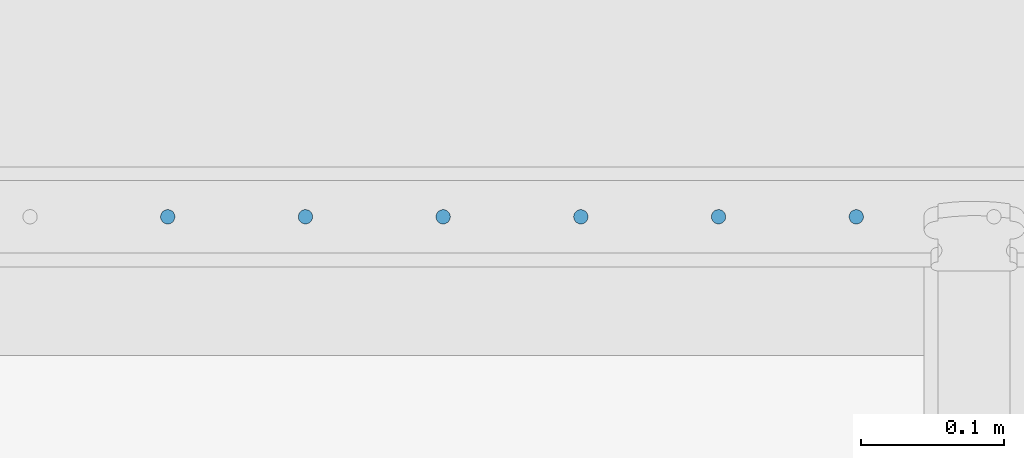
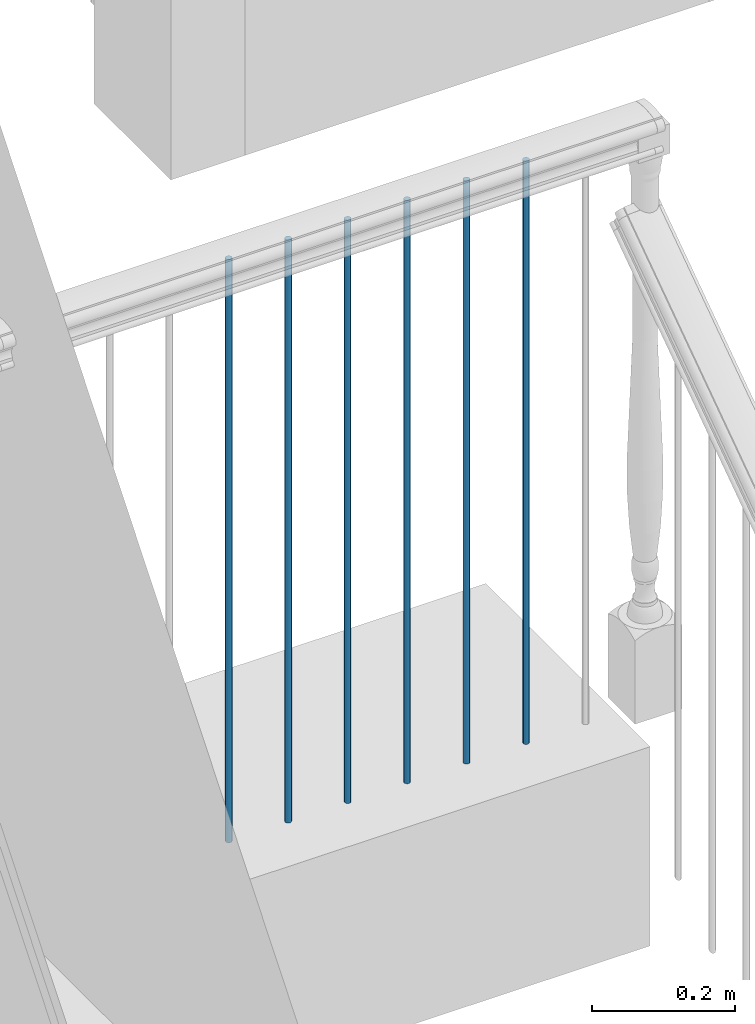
# One storey, part 23 of 77: 6 building element parts, 1 element without a shape of its own.
"""IFC2X3 building model written with IfcOpenShell, lengths in inches."""

from ifc_helpers import new_model, entity, si_unit, converted_unit, derived_unit, money_unit, direction, frame, origin_with_axes, place, context, subcontext, project, spatial, faceted_brep, material, type_object, element, aggregate, save


model = new_model("IFC2X3")

# Units and contexts
model_context = context("Model", 3, precision=0.000393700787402, world=origin_with_axes(), true_north=direction((0.0, 1.0)))
body_context = subcontext(model_context, "Body", "Model", "MODEL_VIEW")
ifc_project = project(units=[converted_unit("LENGTHUNIT", "INCH", entity("IfcPositiveLengthMeasure", 0.0254), si_unit("LENGTHUNIT", "METRE"), dimensions=[1, 0, 0, 0, 0, 0, 0]), converted_unit("AREAUNIT", "SQUARE_FOOT", entity("IfcPositiveLengthMeasure", 0.09290304), si_unit("AREAUNIT", "SQUARE_METRE"), dimensions=[2, 0, 0, 0, 0, 0, 0]), si_unit("PLANEANGLEUNIT", "RADIAN"), si_unit("SOLIDANGLEUNIT", "STERADIAN"), money_unit("USD"), converted_unit("TIMEUNIT", "Year", entity("IfcTimeMeasure", 31556926.0), si_unit("TIMEUNIT", "SECOND"), dimensions=[0, 0, 1, 0, 0, 0, 0]), si_unit("MASSUNIT", "GRAM", prefix="KILO"), si_unit("THERMODYNAMICTEMPERATUREUNIT", "DEGREE_CELSIUS"), si_unit("LUMINOUSINTENSITYUNIT", "LUMEN"), si_unit("ENERGYUNIT", "JOULE", prefix="MEGA"), derived_unit("THERMALCONDUCTANCEUNIT", [(si_unit("POWERUNIT", "WATT"), 1), (si_unit("LENGTHUNIT", "METRE"), -1), (si_unit("THERMODYNAMICTEMPERATUREUNIT", "KELVIN"), -1)]), derived_unit("SPECIFICHEATCAPACITYUNIT", [(si_unit("ENERGYUNIT", "JOULE"), 1), (si_unit("MASSUNIT", "GRAM", prefix="KILO"), -1), (si_unit("THERMODYNAMICTEMPERATUREUNIT", "KELVIN"), -1)]), derived_unit("MASSDENSITYUNIT", [(si_unit("MASSUNIT", "GRAM", prefix="KILO"), 1), (si_unit("VOLUMEUNIT", "CUBIC_METRE"), -1)])], contexts=[model_context])

# Site, building, storey
site_placement = place(None, origin_with_axes())
site = spatial("IfcSite", under=ifc_project, at=site_placement, Name="Site", CompositionType="ELEMENT")
building_placement = place(site_placement, origin_with_axes())
building = spatial("IfcBuilding", under=site, at=building_placement, Name="Building", CompositionType="ELEMENT")
storey_placement = place(building_placement, frame((0.0, 0.0, 127.952755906), z_axis=(0.0, 0.0, 1.0), x_axis=(1.0, 0.0, 0.0)))
storey = spatial("IfcBuildingStorey", under=building, at=storey_placement, Name="Second Floor", CompositionType="ELEMENT", Elevation=127.953)

# Railing, building element parts
railing_type = type_object("IfcRailingType", Name="Railing Type", PredefinedType="NOTDEFINED")
railing_placement = place(storey_placement, frame((643.187139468, 142.90717231, 0.0), z_axis=(0.0, 0.0, 1.0), x_axis=(0.0, 1.0, 0.0)))
railing = element("IfcRailing", 1, at=railing_placement, inside=storey, type_object=railing_type, Name="RAILING - 001", PredefinedType="NOTDEFINED")
ifc_material = material(Name="Steel - Structural")
building_element_part_1_placement = place(railing_placement, origin_with_axes())
building_element_part_1 = element("IfcBuildingElementPart", 2, at=building_element_part_1_placement, material=ifc_material, Name="Steel - Structural", context=body_context, shape_type="Brep", body=[
    faceted_brep([(1.96850393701, -14.9305048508, -4.94161422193e-07), (1.93432122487, -14.9334954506, -4.94161422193e-07), (1.93432122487, -14.9334954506, 39.2125984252), (1.96850393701, -14.9305048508, 39.2125984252), (2.00268664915, -14.9334954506, -4.94161422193e-07), (2.03583073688, -14.9423763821, -4.94161422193e-07), (2.06692913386, -14.9568778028, -4.94161422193e-07), (2.09503693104, -14.9765590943, -4.94161422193e-07), (2.11930008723, -15.0008222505, -4.94161422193e-07), (2.1389813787, -15.0289300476, -4.94161422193e-07), (2.15348279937, -15.0600284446, -4.94161422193e-07), (2.16236373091, -15.0931725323, -4.94161422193e-07), (2.16535433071, -15.1273552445, -4.94161422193e-07), (2.16236373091, -15.1615379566, -4.94161422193e-07), (2.15348279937, -15.1946820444, -4.94161422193e-07), (2.1389813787, -15.2257804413, -4.94161422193e-07), (2.11930008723, -15.2538882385, -4.94161422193e-07), (2.09503693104, -15.2781513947, -4.94161422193e-07), (2.06692913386, -15.2978326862, -4.94161422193e-07), (2.03583073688, -15.3123341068, -4.94161422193e-07), (2.00268664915, -15.3212150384, -4.94161422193e-07), (1.96850393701, -15.3242056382, -4.94161422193e-07), (1.93432122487, -15.3212150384, -4.94161422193e-07), (1.90117713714, -15.3123341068, -4.94161422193e-07), (1.87007874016, -15.2978326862, -4.94161422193e-07), (1.84197094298, -15.2781513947, -4.94161422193e-07), (1.81770778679, -15.2538882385, -4.94161422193e-07), (1.79802649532, -15.2257804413, -4.94161422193e-07), (1.78352507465, -15.1946820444, -4.94161422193e-07), (1.77464414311, -15.1615379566, -4.94161422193e-07), (1.77165354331, -15.1273552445, -4.94161422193e-07), (1.77464414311, -15.0931725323, -4.94161422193e-07), (1.78352507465, -15.0600284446, -4.94161422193e-07), (1.79802649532, -15.0289300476, -4.94161422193e-07), (1.81770778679, -15.0008222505, -4.94161422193e-07), (1.84197094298, -14.9765590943, -4.94161422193e-07), (1.87007874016, -14.9568778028, -4.94161422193e-07), (1.90117713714, -14.9423763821, -4.94161422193e-07), (1.90117713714, -14.9423763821, 39.2125984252), (1.87007874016, -14.9568778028, 39.2125984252), (1.84197094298, -14.9765590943, 39.2125984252), (1.81770778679, -15.0008222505, 39.2125984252), (1.79802649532, -15.0289300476, 39.2125984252), (1.78352507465, -15.0600284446, 39.2125984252), (1.77464414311, -15.0931725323, 39.2125984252), (1.77165354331, -15.1273552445, 39.2125984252), (1.77464414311, -15.1615379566, 39.2125984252), (1.78352507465, -15.1946820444, 39.2125984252), (1.79802649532, -15.2257804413, 39.2125984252), (1.81770778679, -15.2538882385, 39.2125984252), (1.84197094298, -15.2781513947, 39.2125984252), (1.87007874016, -15.2978326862, 39.2125984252), (1.90117713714, -15.3123341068, 39.2125984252), (1.93432122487, -15.3212150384, 39.2125984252), (1.96850393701, -15.3242056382, 39.2125984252), (2.00268664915, -15.3212150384, 39.2125984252), (2.03583073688, -15.3123341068, 39.2125984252), (2.06692913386, -15.2978326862, 39.2125984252), (2.09503693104, -15.2781513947, 39.2125984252), (2.11930008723, -15.2538882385, 39.2125984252), (2.1389813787, -15.2257804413, 39.2125984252), (2.15348279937, -15.1946820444, 39.2125984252), (2.16236373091, -15.1615379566, 39.2125984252), (2.16535433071, -15.1273552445, 39.2125984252), (2.16236373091, -15.0931725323, 39.2125984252), (2.15348279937, -15.0600284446, 39.2125984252), (2.1389813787, -15.0289300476, 39.2125984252), (2.11930008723, -15.0008222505, 39.2125984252), (2.09503693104, -14.9765590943, 39.2125984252), (2.06692913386, -14.9568778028, 39.2125984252), (2.03583073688, -14.9423763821, 39.2125984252), (2.00268664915, -14.9334954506, 39.2125984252)], [[[0, 1, 2, 3]], [[0, 4, 5, 6, 7, 8, 9, 10, 11, 12, 13, 14, 15, 16, 17, 18, 19, 20, 21, 22, 23, 24, 25, 26, 27, 28, 29, 30, 31, 32, 33, 34, 35, 36, 37, 1]], [[1, 37, 38, 2]], [[3, 2, 38, 39, 40, 41, 42, 43, 44, 45, 46, 47, 48, 49, 50, 51, 52, 53, 54, 55, 56, 57, 58, 59, 60, 61, 62, 63, 64, 65, 66, 67, 68, 69, 70, 71]], [[4, 0, 3, 71]], [[5, 4, 71, 70]], [[6, 5, 70, 69]], [[7, 6, 69, 68]], [[8, 7, 68, 67]], [[9, 8, 67, 66]], [[10, 9, 66, 65]], [[11, 10, 65, 64]], [[12, 11, 64, 63]], [[13, 12, 63, 62]], [[14, 13, 62, 61]], [[15, 14, 61, 60]], [[16, 15, 60, 59]], [[17, 16, 59, 58]], [[18, 17, 58, 57]], [[19, 18, 57, 56]], [[20, 19, 56, 55]], [[21, 20, 55, 54]], [[22, 21, 54, 53]], [[23, 22, 53, 52]], [[24, 23, 52, 51]], [[25, 24, 51, 50]], [[26, 25, 50, 49]], [[27, 26, 49, 48]], [[28, 27, 48, 47]], [[29, 28, 47, 46]], [[30, 29, 46, 45]], [[31, 30, 45, 44]], [[32, 31, 44, 43]], [[33, 32, 43, 42]], [[34, 33, 42, 41]], [[35, 34, 41, 40]], [[36, 35, 40, 39]], [[37, 36, 39, 38]]]),
])
building_element_part_2_placement = place(railing_placement, origin_with_axes())
building_element_part_2 = element("IfcBuildingElementPart", 3, at=building_element_part_2_placement, material=ifc_material, Name="Steel - Structural", context=body_context, shape_type="Brep", body=[
    faceted_brep([(1.96850393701, -18.7123436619, -4.94161422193e-07), (1.93432122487, -18.7153342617, -4.94161422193e-07), (1.93432122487, -18.7153342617, 39.2125984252), (1.96850393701, -18.7123436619, 39.2125984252), (2.00268664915, -18.7153342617, -4.94161422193e-07), (2.03583073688, -18.7242151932, -4.94161422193e-07), (2.06692913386, -18.7387166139, -4.94161422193e-07), (2.09503693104, -18.7583979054, -4.94161422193e-07), (2.11930008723, -18.7826610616, -4.94161422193e-07), (2.1389813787, -18.8107688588, -4.94161422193e-07), (2.15348279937, -18.8418672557, -4.94161422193e-07), (2.16236373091, -18.8750113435, -4.94161422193e-07), (2.16535433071, -18.9091940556, -4.94161422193e-07), (2.16236373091, -18.9433767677, -4.94161422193e-07), (2.15348279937, -18.9765208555, -4.94161422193e-07), (2.1389813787, -19.0076192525, -4.94161422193e-07), (2.11930008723, -19.0357270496, -4.94161422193e-07), (2.09503693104, -19.0599902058, -4.94161422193e-07), (2.06692913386, -19.0796714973, -4.94161422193e-07), (2.03583073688, -19.094172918, -4.94161422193e-07), (2.00268664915, -19.1030538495, -4.94161422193e-07), (1.96850393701, -19.1060444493, -4.94161422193e-07), (1.93432122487, -19.1030538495, -4.94161422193e-07), (1.90117713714, -19.094172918, -4.94161422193e-07), (1.87007874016, -19.0796714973, -4.94161422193e-07), (1.84197094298, -19.0599902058, -4.94161422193e-07), (1.81770778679, -19.0357270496, -4.94161422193e-07), (1.79802649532, -19.0076192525, -4.94161422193e-07), (1.78352507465, -18.9765208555, -4.94161422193e-07), (1.77464414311, -18.9433767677, -4.94161422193e-07), (1.77165354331, -18.9091940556, -4.94161422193e-07), (1.77464414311, -18.8750113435, -4.94161422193e-07), (1.78352507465, -18.8418672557, -4.94161422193e-07), (1.79802649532, -18.8107688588, -4.94161422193e-07), (1.81770778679, -18.7826610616, -4.94161422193e-07), (1.84197094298, -18.7583979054, -4.94161422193e-07), (1.87007874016, -18.7387166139, -4.94161422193e-07), (1.90117713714, -18.7242151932, -4.94161422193e-07), (1.90117713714, -18.7242151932, 39.2125984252), (1.87007874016, -18.7387166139, 39.2125984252), (1.84197094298, -18.7583979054, 39.2125984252), (1.81770778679, -18.7826610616, 39.2125984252), (1.79802649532, -18.8107688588, 39.2125984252), (1.78352507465, -18.8418672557, 39.2125984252), (1.77464414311, -18.8750113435, 39.2125984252), (1.77165354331, -18.9091940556, 39.2125984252), (1.77464414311, -18.9433767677, 39.2125984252), (1.78352507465, -18.9765208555, 39.2125984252), (1.79802649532, -19.0076192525, 39.2125984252), (1.81770778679, -19.0357270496, 39.2125984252), (1.84197094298, -19.0599902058, 39.2125984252), (1.87007874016, -19.0796714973, 39.2125984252), (1.90117713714, -19.094172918, 39.2125984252), (1.93432122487, -19.1030538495, 39.2125984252), (1.96850393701, -19.1060444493, 39.2125984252), (2.00268664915, -19.1030538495, 39.2125984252), (2.03583073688, -19.094172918, 39.2125984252), (2.06692913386, -19.0796714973, 39.2125984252), (2.09503693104, -19.0599902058, 39.2125984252), (2.11930008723, -19.0357270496, 39.2125984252), (2.1389813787, -19.0076192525, 39.2125984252), (2.15348279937, -18.9765208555, 39.2125984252), (2.16236373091, -18.9433767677, 39.2125984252), (2.16535433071, -18.9091940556, 39.2125984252), (2.16236373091, -18.8750113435, 39.2125984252), (2.15348279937, -18.8418672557, 39.2125984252), (2.1389813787, -18.8107688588, 39.2125984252), (2.11930008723, -18.7826610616, 39.2125984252), (2.09503693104, -18.7583979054, 39.2125984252), (2.06692913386, -18.7387166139, 39.2125984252), (2.03583073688, -18.7242151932, 39.2125984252), (2.00268664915, -18.7153342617, 39.2125984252)], [[[0, 1, 2, 3]], [[0, 4, 5, 6, 7, 8, 9, 10, 11, 12, 13, 14, 15, 16, 17, 18, 19, 20, 21, 22, 23, 24, 25, 26, 27, 28, 29, 30, 31, 32, 33, 34, 35, 36, 37, 1]], [[1, 37, 38, 2]], [[3, 2, 38, 39, 40, 41, 42, 43, 44, 45, 46, 47, 48, 49, 50, 51, 52, 53, 54, 55, 56, 57, 58, 59, 60, 61, 62, 63, 64, 65, 66, 67, 68, 69, 70, 71]], [[4, 0, 3, 71]], [[5, 4, 71, 70]], [[6, 5, 70, 69]], [[7, 6, 69, 68]], [[8, 7, 68, 67]], [[9, 8, 67, 66]], [[10, 9, 66, 65]], [[11, 10, 65, 64]], [[12, 11, 64, 63]], [[13, 12, 63, 62]], [[14, 13, 62, 61]], [[15, 14, 61, 60]], [[16, 15, 60, 59]], [[17, 16, 59, 58]], [[18, 17, 58, 57]], [[19, 18, 57, 56]], [[20, 19, 56, 55]], [[21, 20, 55, 54]], [[22, 21, 54, 53]], [[23, 22, 53, 52]], [[24, 23, 52, 51]], [[25, 24, 51, 50]], [[26, 25, 50, 49]], [[27, 26, 49, 48]], [[28, 27, 48, 47]], [[29, 28, 47, 46]], [[30, 29, 46, 45]], [[31, 30, 45, 44]], [[32, 31, 44, 43]], [[33, 32, 43, 42]], [[34, 33, 42, 41]], [[35, 34, 41, 40]], [[36, 35, 40, 39]], [[37, 36, 39, 38]]]),
])
building_element_part_3_placement = place(railing_placement, origin_with_axes())
building_element_part_3 = element("IfcBuildingElementPart", 4, at=building_element_part_3_placement, material=ifc_material, Name="Steel - Structural", context=body_context, shape_type="Brep", body=[
    faceted_brep([(1.96850393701, -22.494182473, -4.94161422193e-07), (1.93432122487, -22.4971730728, -4.94161422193e-07), (1.93432122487, -22.4971730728, 39.2125984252), (1.96850393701, -22.494182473, 39.2125984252), (2.00268664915, -22.4971730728, -4.94161422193e-07), (2.03583073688, -22.5060540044, -4.94161422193e-07), (2.06692913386, -22.520555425, -4.94161422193e-07), (2.09503693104, -22.5402367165, -4.94161422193e-07), (2.11930008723, -22.5644998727, -4.94161422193e-07), (2.1389813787, -22.5926076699, -4.94161422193e-07), (2.15348279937, -22.6237060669, -4.94161422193e-07), (2.16236373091, -22.6568501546, -4.94161422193e-07), (2.16535433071, -22.6910328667, -4.94161422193e-07), (2.16236373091, -22.7252155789, -4.94161422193e-07), (2.15348279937, -22.7583596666, -4.94161422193e-07), (2.1389813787, -22.7894580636, -4.94161422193e-07), (2.11930008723, -22.8175658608, -4.94161422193e-07), (2.09503693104, -22.8418290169, -4.94161422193e-07), (2.06692913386, -22.8615103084, -4.94161422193e-07), (2.03583073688, -22.8760117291, -4.94161422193e-07), (2.00268664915, -22.8848926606, -4.94161422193e-07), (1.96850393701, -22.8878832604, -4.94161422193e-07), (1.93432122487, -22.8848926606, -4.94161422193e-07), (1.90117713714, -22.8760117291, -4.94161422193e-07), (1.87007874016, -22.8615103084, -4.94161422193e-07), (1.84197094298, -22.8418290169, -4.94161422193e-07), (1.81770778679, -22.8175658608, -4.94161422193e-07), (1.79802649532, -22.7894580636, -4.94161422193e-07), (1.78352507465, -22.7583596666, -4.94161422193e-07), (1.77464414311, -22.7252155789, -4.94161422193e-07), (1.77165354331, -22.6910328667, -4.94161422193e-07), (1.77464414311, -22.6568501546, -4.94161422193e-07), (1.78352507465, -22.6237060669, -4.94161422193e-07), (1.79802649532, -22.5926076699, -4.94161422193e-07), (1.81770778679, -22.5644998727, -4.94161422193e-07), (1.84197094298, -22.5402367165, -4.94161422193e-07), (1.87007874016, -22.520555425, -4.94161422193e-07), (1.90117713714, -22.5060540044, -4.94161422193e-07), (1.90117713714, -22.5060540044, 39.2125984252), (1.87007874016, -22.520555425, 39.2125984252), (1.84197094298, -22.5402367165, 39.2125984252), (1.81770778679, -22.5644998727, 39.2125984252), (1.79802649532, -22.5926076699, 39.2125984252), (1.78352507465, -22.6237060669, 39.2125984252), (1.77464414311, -22.6568501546, 39.2125984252), (1.77165354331, -22.6910328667, 39.2125984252), (1.77464414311, -22.7252155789, 39.2125984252), (1.78352507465, -22.7583596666, 39.2125984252), (1.79802649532, -22.7894580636, 39.2125984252), (1.81770778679, -22.8175658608, 39.2125984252), (1.84197094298, -22.8418290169, 39.2125984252), (1.87007874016, -22.8615103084, 39.2125984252), (1.90117713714, -22.8760117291, 39.2125984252), (1.93432122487, -22.8848926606, 39.2125984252), (1.96850393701, -22.8878832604, 39.2125984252), (2.00268664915, -22.8848926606, 39.2125984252), (2.03583073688, -22.8760117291, 39.2125984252), (2.06692913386, -22.8615103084, 39.2125984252), (2.09503693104, -22.8418290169, 39.2125984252), (2.11930008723, -22.8175658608, 39.2125984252), (2.1389813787, -22.7894580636, 39.2125984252), (2.15348279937, -22.7583596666, 39.2125984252), (2.16236373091, -22.7252155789, 39.2125984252), (2.16535433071, -22.6910328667, 39.2125984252), (2.16236373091, -22.6568501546, 39.2125984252), (2.15348279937, -22.6237060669, 39.2125984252), (2.1389813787, -22.5926076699, 39.2125984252), (2.11930008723, -22.5644998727, 39.2125984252), (2.09503693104, -22.5402367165, 39.2125984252), (2.06692913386, -22.520555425, 39.2125984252), (2.03583073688, -22.5060540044, 39.2125984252), (2.00268664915, -22.4971730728, 39.2125984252)], [[[0, 1, 2, 3]], [[0, 4, 5, 6, 7, 8, 9, 10, 11, 12, 13, 14, 15, 16, 17, 18, 19, 20, 21, 22, 23, 24, 25, 26, 27, 28, 29, 30, 31, 32, 33, 34, 35, 36, 37, 1]], [[1, 37, 38, 2]], [[3, 2, 38, 39, 40, 41, 42, 43, 44, 45, 46, 47, 48, 49, 50, 51, 52, 53, 54, 55, 56, 57, 58, 59, 60, 61, 62, 63, 64, 65, 66, 67, 68, 69, 70, 71]], [[4, 0, 3, 71]], [[5, 4, 71, 70]], [[6, 5, 70, 69]], [[7, 6, 69, 68]], [[8, 7, 68, 67]], [[9, 8, 67, 66]], [[10, 9, 66, 65]], [[11, 10, 65, 64]], [[12, 11, 64, 63]], [[13, 12, 63, 62]], [[14, 13, 62, 61]], [[15, 14, 61, 60]], [[16, 15, 60, 59]], [[17, 16, 59, 58]], [[18, 17, 58, 57]], [[19, 18, 57, 56]], [[20, 19, 56, 55]], [[21, 20, 55, 54]], [[22, 21, 54, 53]], [[23, 22, 53, 52]], [[24, 23, 52, 51]], [[25, 24, 51, 50]], [[26, 25, 50, 49]], [[27, 26, 49, 48]], [[28, 27, 48, 47]], [[29, 28, 47, 46]], [[30, 29, 46, 45]], [[31, 30, 45, 44]], [[32, 31, 44, 43]], [[33, 32, 43, 42]], [[34, 33, 42, 41]], [[35, 34, 41, 40]], [[36, 35, 40, 39]], [[37, 36, 39, 38]]]),
])
building_element_part_4_placement = place(railing_placement, origin_with_axes())
building_element_part_4 = element("IfcBuildingElementPart", 5, at=building_element_part_4_placement, material=ifc_material, Name="Steel - Structural", context=body_context, shape_type="Brep", body=[
    faceted_brep([(1.96850393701, -26.2760212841, -4.94161422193e-07), (1.93432122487, -26.2790118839, -4.94161422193e-07), (1.93432122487, -26.2790118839, 39.2125984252), (1.96850393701, -26.2760212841, 39.2125984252), (2.00268664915, -26.2790118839, -4.94161422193e-07), (2.03583073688, -26.2878928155, -4.94161422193e-07), (2.06692913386, -26.3023942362, -4.94161422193e-07), (2.09503693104, -26.3220755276, -4.94161422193e-07), (2.11930008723, -26.3463386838, -4.94161422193e-07), (2.1389813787, -26.374446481, -4.94161422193e-07), (2.15348279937, -26.405544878, -4.94161422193e-07), (2.16236373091, -26.4386889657, -4.94161422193e-07), (2.16535433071, -26.4728716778, -4.94161422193e-07), (2.16236373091, -26.50705439, -4.94161422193e-07), (2.15348279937, -26.5401984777, -4.94161422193e-07), (2.1389813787, -26.5712968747, -4.94161422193e-07), (2.11930008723, -26.5994046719, -4.94161422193e-07), (2.09503693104, -26.6236678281, -4.94161422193e-07), (2.06692913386, -26.6433491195, -4.94161422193e-07), (2.03583073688, -26.6578505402, -4.94161422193e-07), (2.00268664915, -26.6667314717, -4.94161422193e-07), (1.96850393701, -26.6697220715, -4.94161422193e-07), (1.93432122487, -26.6667314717, -4.94161422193e-07), (1.90117713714, -26.6578505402, -4.94161422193e-07), (1.87007874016, -26.6433491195, -4.94161422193e-07), (1.84197094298, -26.6236678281, -4.94161422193e-07), (1.81770778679, -26.5994046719, -4.94161422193e-07), (1.79802649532, -26.5712968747, -4.94161422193e-07), (1.78352507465, -26.5401984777, -4.94161422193e-07), (1.77464414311, -26.50705439, -4.94161422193e-07), (1.77165354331, -26.4728716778, -4.94161422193e-07), (1.77464414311, -26.4386889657, -4.94161422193e-07), (1.78352507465, -26.405544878, -4.94161422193e-07), (1.79802649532, -26.374446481, -4.94161422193e-07), (1.81770778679, -26.3463386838, -4.94161422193e-07), (1.84197094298, -26.3220755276, -4.94161422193e-07), (1.87007874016, -26.3023942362, -4.94161422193e-07), (1.90117713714, -26.2878928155, -4.94161422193e-07), (1.90117713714, -26.2878928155, 39.2125984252), (1.87007874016, -26.3023942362, 39.2125984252), (1.84197094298, -26.3220755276, 39.2125984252), (1.81770778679, -26.3463386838, 39.2125984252), (1.79802649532, -26.374446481, 39.2125984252), (1.78352507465, -26.405544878, 39.2125984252), (1.77464414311, -26.4386889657, 39.2125984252), (1.77165354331, -26.4728716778, 39.2125984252), (1.77464414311, -26.50705439, 39.2125984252), (1.78352507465, -26.5401984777, 39.2125984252), (1.79802649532, -26.5712968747, 39.2125984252), (1.81770778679, -26.5994046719, 39.2125984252), (1.84197094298, -26.6236678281, 39.2125984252), (1.87007874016, -26.6433491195, 39.2125984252), (1.90117713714, -26.6578505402, 39.2125984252), (1.93432122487, -26.6667314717, 39.2125984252), (1.96850393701, -26.6697220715, 39.2125984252), (2.00268664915, -26.6667314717, 39.2125984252), (2.03583073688, -26.6578505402, 39.2125984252), (2.06692913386, -26.6433491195, 39.2125984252), (2.09503693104, -26.6236678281, 39.2125984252), (2.11930008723, -26.5994046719, 39.2125984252), (2.1389813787, -26.5712968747, 39.2125984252), (2.15348279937, -26.5401984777, 39.2125984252), (2.16236373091, -26.50705439, 39.2125984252), (2.16535433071, -26.4728716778, 39.2125984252), (2.16236373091, -26.4386889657, 39.2125984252), (2.15348279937, -26.405544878, 39.2125984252), (2.1389813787, -26.374446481, 39.2125984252), (2.11930008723, -26.3463386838, 39.2125984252), (2.09503693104, -26.3220755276, 39.2125984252), (2.06692913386, -26.3023942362, 39.2125984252), (2.03583073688, -26.2878928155, 39.2125984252), (2.00268664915, -26.2790118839, 39.2125984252)], [[[0, 1, 2, 3]], [[0, 4, 5, 6, 7, 8, 9, 10, 11, 12, 13, 14, 15, 16, 17, 18, 19, 20, 21, 22, 23, 24, 25, 26, 27, 28, 29, 30, 31, 32, 33, 34, 35, 36, 37, 1]], [[1, 37, 38, 2]], [[3, 2, 38, 39, 40, 41, 42, 43, 44, 45, 46, 47, 48, 49, 50, 51, 52, 53, 54, 55, 56, 57, 58, 59, 60, 61, 62, 63, 64, 65, 66, 67, 68, 69, 70, 71]], [[4, 0, 3, 71]], [[5, 4, 71, 70]], [[6, 5, 70, 69]], [[7, 6, 69, 68]], [[8, 7, 68, 67]], [[9, 8, 67, 66]], [[10, 9, 66, 65]], [[11, 10, 65, 64]], [[12, 11, 64, 63]], [[13, 12, 63, 62]], [[14, 13, 62, 61]], [[15, 14, 61, 60]], [[16, 15, 60, 59]], [[17, 16, 59, 58]], [[18, 17, 58, 57]], [[19, 18, 57, 56]], [[20, 19, 56, 55]], [[21, 20, 55, 54]], [[22, 21, 54, 53]], [[23, 22, 53, 52]], [[24, 23, 52, 51]], [[25, 24, 51, 50]], [[26, 25, 50, 49]], [[27, 26, 49, 48]], [[28, 27, 48, 47]], [[29, 28, 47, 46]], [[30, 29, 46, 45]], [[31, 30, 45, 44]], [[32, 31, 44, 43]], [[33, 32, 43, 42]], [[34, 33, 42, 41]], [[35, 34, 41, 40]], [[36, 35, 40, 39]], [[37, 36, 39, 38]]]),
])
building_element_part_5_placement = place(railing_placement, origin_with_axes())
building_element_part_5 = element("IfcBuildingElementPart", 6, at=building_element_part_5_placement, material=ifc_material, Name="Steel - Structural", context=body_context, shape_type="Brep", body=[
    faceted_brep([(1.96850393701, -30.0578600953, -4.94161422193e-07), (1.93432122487, -30.0608506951, -4.94161422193e-07), (1.93432122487, -30.0608506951, 39.2125984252), (1.96850393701, -30.0578600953, 39.2125984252), (2.00268664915, -30.0608506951, -4.94161422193e-07), (2.03583073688, -30.0697316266, -4.94161422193e-07), (2.06692913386, -30.0842330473, -4.94161422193e-07), (2.09503693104, -30.1039143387, -4.94161422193e-07), (2.11930008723, -30.1281774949, -4.94161422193e-07), (2.1389813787, -30.1562852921, -4.94161422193e-07), (2.15348279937, -30.1873836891, -4.94161422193e-07), (2.16236373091, -30.2205277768, -4.94161422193e-07), (2.16535433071, -30.254710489, -4.94161422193e-07), (2.16236373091, -30.2888932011, -4.94161422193e-07), (2.15348279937, -30.3220372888, -4.94161422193e-07), (2.1389813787, -30.3531356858, -4.94161422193e-07), (2.11930008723, -30.381243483, -4.94161422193e-07), (2.09503693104, -30.4055066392, -4.94161422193e-07), (2.06692913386, -30.4251879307, -4.94161422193e-07), (2.03583073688, -30.4396893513, -4.94161422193e-07), (2.00268664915, -30.4485702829, -4.94161422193e-07), (1.96850393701, -30.4515608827, -4.94161422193e-07), (1.93432122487, -30.4485702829, -4.94161422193e-07), (1.90117713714, -30.4396893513, -4.94161422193e-07), (1.87007874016, -30.4251879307, -4.94161422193e-07), (1.84197094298, -30.4055066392, -4.94161422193e-07), (1.81770778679, -30.381243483, -4.94161422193e-07), (1.79802649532, -30.3531356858, -4.94161422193e-07), (1.78352507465, -30.3220372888, -4.94161422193e-07), (1.77464414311, -30.2888932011, -4.94161422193e-07), (1.77165354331, -30.254710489, -4.94161422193e-07), (1.77464414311, -30.2205277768, -4.94161422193e-07), (1.78352507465, -30.1873836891, -4.94161422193e-07), (1.79802649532, -30.1562852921, -4.94161422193e-07), (1.81770778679, -30.1281774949, -4.94161422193e-07), (1.84197094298, -30.1039143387, -4.94161422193e-07), (1.87007874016, -30.0842330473, -4.94161422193e-07), (1.90117713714, -30.0697316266, -4.94161422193e-07), (1.90117713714, -30.0697316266, 39.2125984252), (1.87007874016, -30.0842330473, 39.2125984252), (1.84197094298, -30.1039143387, 39.2125984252), (1.81770778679, -30.1281774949, 39.2125984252), (1.79802649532, -30.1562852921, 39.2125984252), (1.78352507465, -30.1873836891, 39.2125984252), (1.77464414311, -30.2205277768, 39.2125984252), (1.77165354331, -30.254710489, 39.2125984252), (1.77464414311, -30.2888932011, 39.2125984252), (1.78352507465, -30.3220372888, 39.2125984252), (1.79802649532, -30.3531356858, 39.2125984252), (1.81770778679, -30.381243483, 39.2125984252), (1.84197094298, -30.4055066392, 39.2125984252), (1.87007874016, -30.4251879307, 39.2125984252), (1.90117713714, -30.4396893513, 39.2125984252), (1.93432122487, -30.4485702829, 39.2125984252), (1.96850393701, -30.4515608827, 39.2125984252), (2.00268664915, -30.4485702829, 39.2125984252), (2.03583073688, -30.4396893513, 39.2125984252), (2.06692913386, -30.4251879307, 39.2125984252), (2.09503693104, -30.4055066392, 39.2125984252), (2.11930008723, -30.381243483, 39.2125984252), (2.1389813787, -30.3531356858, 39.2125984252), (2.15348279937, -30.3220372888, 39.2125984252), (2.16236373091, -30.2888932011, 39.2125984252), (2.16535433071, -30.254710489, 39.2125984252), (2.16236373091, -30.2205277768, 39.2125984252), (2.15348279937, -30.1873836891, 39.2125984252), (2.1389813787, -30.1562852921, 39.2125984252), (2.11930008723, -30.1281774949, 39.2125984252), (2.09503693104, -30.1039143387, 39.2125984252), (2.06692913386, -30.0842330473, 39.2125984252), (2.03583073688, -30.0697316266, 39.2125984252), (2.00268664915, -30.0608506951, 39.2125984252)], [[[0, 1, 2, 3]], [[0, 4, 5, 6, 7, 8, 9, 10, 11, 12, 13, 14, 15, 16, 17, 18, 19, 20, 21, 22, 23, 24, 25, 26, 27, 28, 29, 30, 31, 32, 33, 34, 35, 36, 37, 1]], [[1, 37, 38, 2]], [[3, 2, 38, 39, 40, 41, 42, 43, 44, 45, 46, 47, 48, 49, 50, 51, 52, 53, 54, 55, 56, 57, 58, 59, 60, 61, 62, 63, 64, 65, 66, 67, 68, 69, 70, 71]], [[4, 0, 3, 71]], [[5, 4, 71, 70]], [[6, 5, 70, 69]], [[7, 6, 69, 68]], [[8, 7, 68, 67]], [[9, 8, 67, 66]], [[10, 9, 66, 65]], [[11, 10, 65, 64]], [[12, 11, 64, 63]], [[13, 12, 63, 62]], [[14, 13, 62, 61]], [[15, 14, 61, 60]], [[16, 15, 60, 59]], [[17, 16, 59, 58]], [[18, 17, 58, 57]], [[19, 18, 57, 56]], [[20, 19, 56, 55]], [[21, 20, 55, 54]], [[22, 21, 54, 53]], [[23, 22, 53, 52]], [[24, 23, 52, 51]], [[25, 24, 51, 50]], [[26, 25, 50, 49]], [[27, 26, 49, 48]], [[28, 27, 48, 47]], [[29, 28, 47, 46]], [[30, 29, 46, 45]], [[31, 30, 45, 44]], [[32, 31, 44, 43]], [[33, 32, 43, 42]], [[34, 33, 42, 41]], [[35, 34, 41, 40]], [[36, 35, 40, 39]], [[37, 36, 39, 38]]]),
])
building_element_part_6_placement = place(railing_placement, origin_with_axes())
building_element_part_6 = element("IfcBuildingElementPart", 7, at=building_element_part_6_placement, material=ifc_material, Name="Steel - Structural", context=body_context, shape_type="Brep", body=[
    faceted_brep([(1.96850393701, -33.8396989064, -4.94161422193e-07), (1.93432122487, -33.8426895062, -4.94161422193e-07), (1.93432122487, -33.8426895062, 39.2125984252), (1.96850393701, -33.8396989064, 39.2125984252), (2.00268664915, -33.8426895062, -4.94161422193e-07), (2.03583073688, -33.8515704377, -4.94161422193e-07), (2.06692913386, -33.8660718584, -4.94161422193e-07), (2.09503693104, -33.8857531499, -4.94161422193e-07), (2.11930008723, -33.9100163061, -4.94161422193e-07), (2.1389813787, -33.9381241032, -4.94161422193e-07), (2.15348279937, -33.9692225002, -4.94161422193e-07), (2.16236373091, -34.002366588, -4.94161422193e-07), (2.16535433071, -34.0365493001, -4.94161422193e-07), (2.16236373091, -34.0707320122, -4.94161422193e-07), (2.15348279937, -34.1038761, -4.94161422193e-07), (2.1389813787, -34.1349744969, -4.94161422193e-07), (2.11930008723, -34.1630822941, -4.94161422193e-07), (2.09503693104, -34.1873454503, -4.94161422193e-07), (2.06692913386, -34.2070267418, -4.94161422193e-07), (2.03583073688, -34.2215281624, -4.94161422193e-07), (2.00268664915, -34.230409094, -4.94161422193e-07), (1.96850393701, -34.2333996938, -4.94161422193e-07), (1.93432122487, -34.230409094, -4.94161422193e-07), (1.90117713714, -34.2215281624, -4.94161422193e-07), (1.87007874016, -34.2070267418, -4.94161422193e-07), (1.84197094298, -34.1873454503, -4.94161422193e-07), (1.81770778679, -34.1630822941, -4.94161422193e-07), (1.79802649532, -34.1349744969, -4.94161422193e-07), (1.78352507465, -34.1038761, -4.94161422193e-07), (1.77464414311, -34.0707320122, -4.94161422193e-07), (1.77165354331, -34.0365493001, -4.94161422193e-07), (1.77464414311, -34.002366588, -4.94161422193e-07), (1.78352507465, -33.9692225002, -4.94161422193e-07), (1.79802649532, -33.9381241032, -4.94161422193e-07), (1.81770778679, -33.9100163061, -4.94161422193e-07), (1.84197094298, -33.8857531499, -4.94161422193e-07), (1.87007874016, -33.8660718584, -4.94161422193e-07), (1.90117713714, -33.8515704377, -4.94161422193e-07), (1.90117713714, -33.8515704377, 39.2125984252), (1.87007874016, -33.8660718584, 39.2125984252), (1.84197094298, -33.8857531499, 39.2125984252), (1.81770778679, -33.9100163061, 39.2125984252), (1.79802649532, -33.9381241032, 39.2125984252), (1.78352507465, -33.9692225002, 39.2125984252), (1.77464414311, -34.002366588, 39.2125984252), (1.77165354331, -34.0365493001, 39.2125984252), (1.77464414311, -34.0707320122, 39.2125984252), (1.78352507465, -34.1038761, 39.2125984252), (1.79802649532, -34.1349744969, 39.2125984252), (1.81770778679, -34.1630822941, 39.2125984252), (1.84197094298, -34.1873454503, 39.2125984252), (1.87007874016, -34.2070267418, 39.2125984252), (1.90117713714, -34.2215281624, 39.2125984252), (1.93432122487, -34.230409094, 39.2125984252), (1.96850393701, -34.2333996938, 39.2125984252), (2.00268664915, -34.230409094, 39.2125984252), (2.03583073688, -34.2215281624, 39.2125984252), (2.06692913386, -34.2070267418, 39.2125984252), (2.09503693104, -34.1873454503, 39.2125984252), (2.11930008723, -34.1630822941, 39.2125984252), (2.1389813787, -34.1349744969, 39.2125984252), (2.15348279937, -34.1038761, 39.2125984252), (2.16236373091, -34.0707320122, 39.2125984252), (2.16535433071, -34.0365493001, 39.2125984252), (2.16236373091, -34.002366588, 39.2125984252), (2.15348279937, -33.9692225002, 39.2125984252), (2.1389813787, -33.9381241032, 39.2125984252), (2.11930008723, -33.9100163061, 39.2125984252), (2.09503693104, -33.8857531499, 39.2125984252), (2.06692913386, -33.8660718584, 39.2125984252), (2.03583073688, -33.8515704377, 39.2125984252), (2.00268664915, -33.8426895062, 39.2125984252)], [[[0, 1, 2, 3]], [[0, 4, 5, 6, 7, 8, 9, 10, 11, 12, 13, 14, 15, 16, 17, 18, 19, 20, 21, 22, 23, 24, 25, 26, 27, 28, 29, 30, 31, 32, 33, 34, 35, 36, 37, 1]], [[1, 37, 38, 2]], [[3, 2, 38, 39, 40, 41, 42, 43, 44, 45, 46, 47, 48, 49, 50, 51, 52, 53, 54, 55, 56, 57, 58, 59, 60, 61, 62, 63, 64, 65, 66, 67, 68, 69, 70, 71]], [[4, 0, 3, 71]], [[5, 4, 71, 70]], [[6, 5, 70, 69]], [[7, 6, 69, 68]], [[8, 7, 68, 67]], [[9, 8, 67, 66]], [[10, 9, 66, 65]], [[11, 10, 65, 64]], [[12, 11, 64, 63]], [[13, 12, 63, 62]], [[14, 13, 62, 61]], [[15, 14, 61, 60]], [[16, 15, 60, 59]], [[17, 16, 59, 58]], [[18, 17, 58, 57]], [[19, 18, 57, 56]], [[20, 19, 56, 55]], [[21, 20, 55, 54]], [[22, 21, 54, 53]], [[23, 22, 53, 52]], [[24, 23, 52, 51]], [[25, 24, 51, 50]], [[26, 25, 50, 49]], [[27, 26, 49, 48]], [[28, 27, 48, 47]], [[29, 28, 47, 46]], [[30, 29, 46, 45]], [[31, 30, 45, 44]], [[32, 31, 44, 43]], [[33, 32, 43, 42]], [[34, 33, 42, 41]], [[35, 34, 41, 40]], [[36, 35, 40, 39]], [[37, 36, 39, 38]]]),
])
aggregate(railing, [building_element_part_1, building_element_part_2, building_element_part_3, building_element_part_4, building_element_part_5, building_element_part_6])

save(model, "model.ifc")
